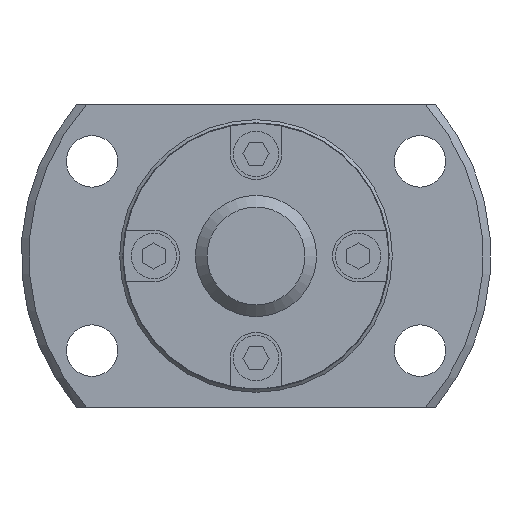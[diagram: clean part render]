
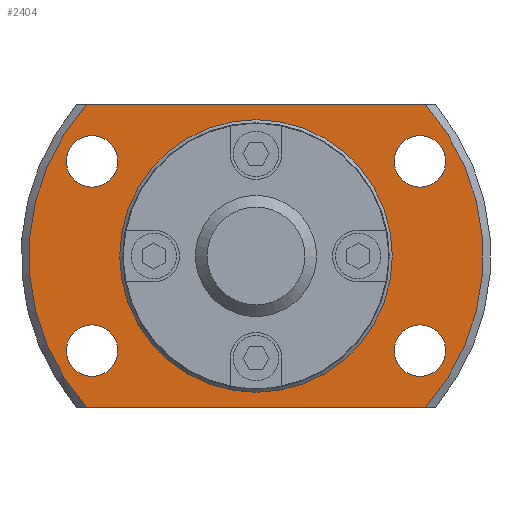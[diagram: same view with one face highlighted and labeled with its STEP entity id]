
A CAD part, left-side view. The second image highlights one B-rep face of the part: STEP entity #2404.
In plain terms, the highlighted planar face has unit normal (-1, 0, 0).
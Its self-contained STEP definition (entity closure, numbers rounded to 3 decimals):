
#133=LINE('',#3757,#359);
#134=LINE('',#3761,#360);
#359=VECTOR('',#3014,1000.);
#360=VECTOR('',#3017,1000.);
#671=ORIENTED_EDGE('',*,*,#1288,.F.);
#672=ORIENTED_EDGE('',*,*,#1289,.F.);
#673=ORIENTED_EDGE('',*,*,#1290,.F.);
#674=ORIENTED_EDGE('',*,*,#1291,.F.);
#675=ORIENTED_EDGE('',*,*,#1274,.F.);
#676=ORIENTED_EDGE('',*,*,#1292,.T.);
#677=ORIENTED_EDGE('',*,*,#1293,.F.);
#678=ORIENTED_EDGE('',*,*,#1294,.T.);
#679=ORIENTED_EDGE('',*,*,#1287,.T.);
#1274=EDGE_CURVE('',#1591,#1592,#1783,.T.);
#1287=EDGE_CURVE('',#1603,#1603,#1791,.T.);
#1288=EDGE_CURVE('',#1604,#1604,#1792,.F.);
#1289=EDGE_CURVE('',#1605,#1605,#1793,.F.);
#1290=EDGE_CURVE('',#1606,#1606,#1794,.F.);
#1291=EDGE_CURVE('',#1607,#1607,#1795,.F.);
#1292=EDGE_CURVE('',#1591,#1608,#133,.T.);
#1293=EDGE_CURVE('',#1609,#1608,#1796,.T.);
#1294=EDGE_CURVE('',#1609,#1592,#134,.T.);
#1591=VERTEX_POINT('',#3705);
#1592=VERTEX_POINT('',#3707);
#1603=VERTEX_POINT('',#3747);
#1604=VERTEX_POINT('',#3750);
#1605=VERTEX_POINT('',#3752);
#1606=VERTEX_POINT('',#3754);
#1607=VERTEX_POINT('',#3756);
#1608=VERTEX_POINT('',#3758);
#1609=VERTEX_POINT('',#3760);
#1783=CIRCLE('',#2610,15.);
#1791=CIRCLE('',#2625,8.85);
#1792=CIRCLE('',#2627,1.7);
#1793=CIRCLE('',#2628,1.7);
#1794=CIRCLE('',#2629,1.7);
#1795=CIRCLE('',#2630,1.7);
#1796=CIRCLE('',#2631,15.);
#1895=EDGE_LOOP('',(#671));
#1896=EDGE_LOOP('',(#672));
#1897=EDGE_LOOP('',(#673));
#1898=EDGE_LOOP('',(#674));
#1899=EDGE_LOOP('',(#675,#676,#677,#678));
#1900=EDGE_LOOP('',(#679));
#2107=FACE_BOUND('',#1895,.T.);
#2108=FACE_BOUND('',#1896,.T.);
#2109=FACE_BOUND('',#1897,.T.);
#2110=FACE_BOUND('',#1898,.T.);
#2111=FACE_BOUND('',#1899,.T.);
#2112=FACE_BOUND('',#1900,.T.);
#2281=PLANE('',#2626);
#2404=ADVANCED_FACE('',(#2107,#2108,#2109,#2110,#2111,#2112),#2281,.F.);
#2610=AXIS2_PLACEMENT_3D('',#3706,#2970,#2971);
#2625=AXIS2_PLACEMENT_3D('',#3746,#3002,#3003);
#2626=AXIS2_PLACEMENT_3D('',#3748,#3004,#3005);
#2627=AXIS2_PLACEMENT_3D('',#3749,#3006,#3007);
#2628=AXIS2_PLACEMENT_3D('',#3751,#3008,#3009);
#2629=AXIS2_PLACEMENT_3D('',#3753,#3010,#3011);
#2630=AXIS2_PLACEMENT_3D('',#3755,#3012,#3013);
#2631=AXIS2_PLACEMENT_3D('',#3759,#3015,#3016);
#2970=DIRECTION('',(1.,0.,0.));
#2971=DIRECTION('',(0.,0.,-1.));
#3002=DIRECTION('',(1.,0.,0.));
#3003=DIRECTION('',(0.,0.,-1.));
#3004=DIRECTION('',(1.,0.,0.));
#3005=DIRECTION('',(0.,0.,-1.));
#3006=DIRECTION('',(1.,0.,0.));
#3007=DIRECTION('',(0.,0.,-1.));
#3008=DIRECTION('',(1.,0.,0.));
#3009=DIRECTION('',(0.,0.,-1.));
#3010=DIRECTION('',(1.,0.,0.));
#3011=DIRECTION('',(0.,0.,-1.));
#3012=DIRECTION('',(1.,0.,0.));
#3013=DIRECTION('',(0.,0.,-1.));
#3014=DIRECTION('',(0.,-1.,0.));
#3015=DIRECTION('',(1.,0.,0.));
#3016=DIRECTION('',(0.,0.,-1.));
#3017=DIRECTION('',(0.,1.,0.));
#3705=CARTESIAN_POINT('',(10.,11.18,-10.));
#3706=CARTESIAN_POINT('',(10.,0.,0.));
#3707=CARTESIAN_POINT('',(10.,11.18,10.));
#3746=CARTESIAN_POINT('',(10.,0.,0.));
#3747=CARTESIAN_POINT('',(10.,0.,-8.85));
#3748=CARTESIAN_POINT('',(10.,8.85,0.));
#3749=CARTESIAN_POINT('',(10.,-10.825,-6.25));
#3750=CARTESIAN_POINT('',(10.,-10.825,-7.95));
#3751=CARTESIAN_POINT('',(10.,-10.825,6.25));
#3752=CARTESIAN_POINT('',(10.,-10.825,4.55));
#3753=CARTESIAN_POINT('',(10.,10.825,-6.25));
#3754=CARTESIAN_POINT('',(10.,10.825,-7.95));
#3755=CARTESIAN_POINT('',(10.,10.825,6.25));
#3756=CARTESIAN_POINT('',(10.,10.825,4.55));
#3757=CARTESIAN_POINT('',(10.,8.85,-10.));
#3758=CARTESIAN_POINT('',(10.,-11.18,-10.));
#3759=CARTESIAN_POINT('',(10.,0.,0.));
#3760=CARTESIAN_POINT('',(10.,-11.18,10.));
#3761=CARTESIAN_POINT('',(10.,8.85,10.));
